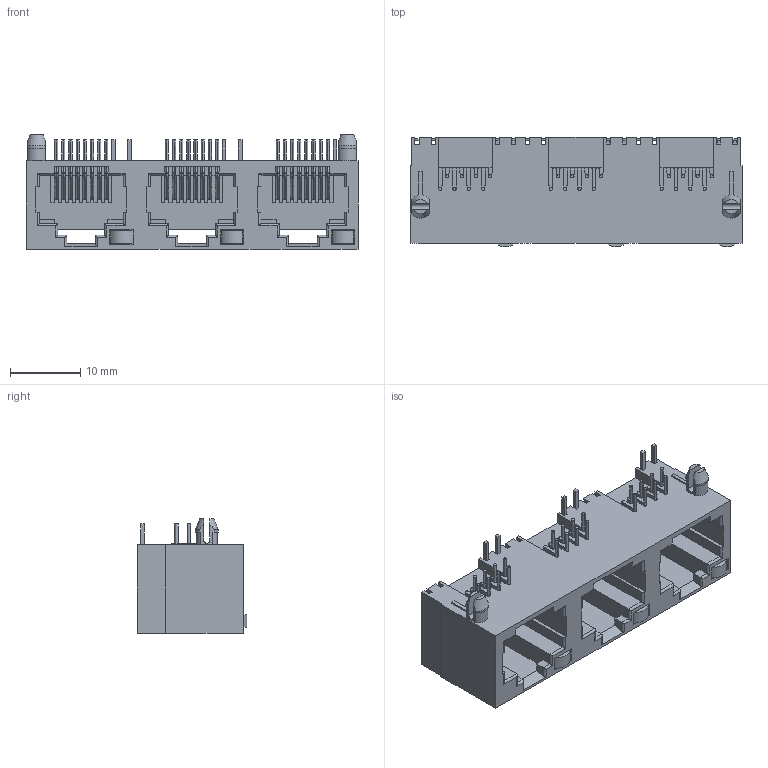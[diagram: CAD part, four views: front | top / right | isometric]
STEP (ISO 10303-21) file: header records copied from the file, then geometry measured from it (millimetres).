
FILE_DESCRIPTION((''),'2;1');
FILE_NAME('56LED-1X3-D00','2019-06-29T08:35:22',('RD002'),(''),'CREO PARAMETRIC BY PTC INC, 2018260','CREO PARAMETRIC BY PTC INC, 2018260','');
FILE_SCHEMA(('CONFIG_CONTROL_DESIGN','GEOMETRIC_VALIDATION_PROPERTIES_MIM'));
Products named in the file (1): 56LED-1X3-D00
Bounding box: 47.2 x 15.6 x 16.3 mm (x, y, z)
Volume: 4097.1 mm3; surface area: 7913.6 mm2
Topology: 4 solids, 4 shells, 1362 faces, 3843 edges, 2431 vertices
Faces by surface type: plane 874, bspline 336, cylinder 148, cone 4
Entity records: 58605 total; most frequent: CARTESIAN_POINT 25472, ORIENTED_EDGE 7686, DIRECTION 5526, EDGE_CURVE 3843, VECTOR 2860, LINE 2860, VERTEX_POINT 2431, EDGE_LOOP 1394
